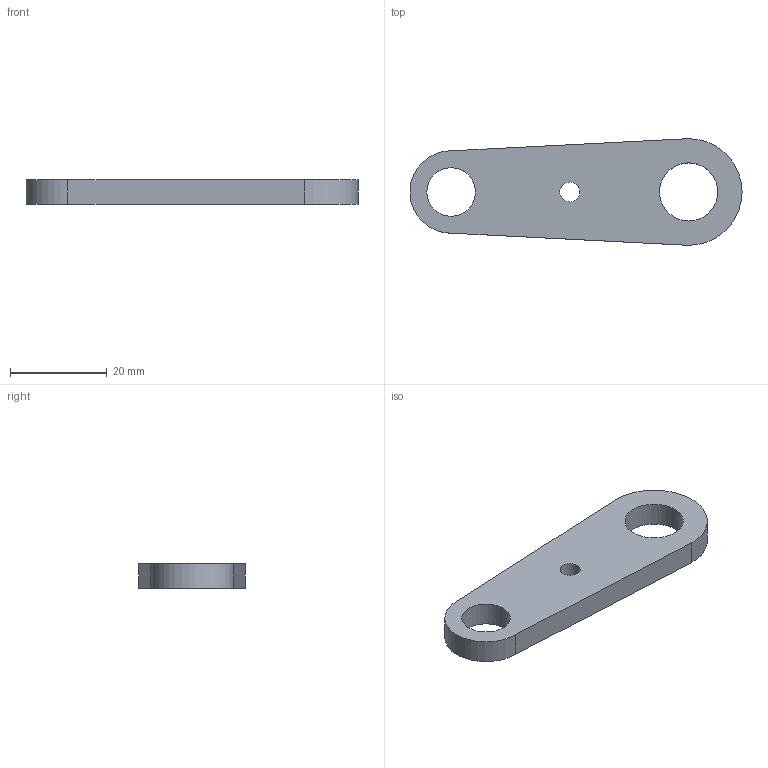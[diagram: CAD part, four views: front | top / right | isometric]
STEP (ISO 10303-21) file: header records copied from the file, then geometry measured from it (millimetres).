
FILE_DESCRIPTION( ( 'Unknown' ), '1' );
FILE_NAME( 'F:/navkite transat/construction/2016/3D ET ASSEMBLAGES/desal/DES 28.stp', 'Unknown', ( 'GMA' ), ( 'Unknown' ), 'XStep 1.0', 'Unknown', ' ' );
FILE_SCHEMA( ( 'automotive_design' ) );
Length unit declared in the file: millimetre
Products named in the file (1): 1
Bounding box: 68.47 x 22 x 5 mm (x, y, z)
Volume: 5267.4 mm3; surface area: 3314.4 mm2
Topology: 1 solids, 1 shells, 9 faces, 22 edges, 15 vertices
Faces by surface type: cylinder 5, plane 4
Full cylindrical faces by diameter (mm): 4.134 x1, 10 x1, 12 x1
Entity records: 350 total; most frequent: DIRECTION 48, CARTESIAN_POINT 42, ORIENTED_EDGE 36, AXIS2_PLACEMENT_3D 20, EDGE_LOOP 18, EDGE_CURVE 18, VERTEX_POINT 14, FACE_OUTER_BOUND 12
